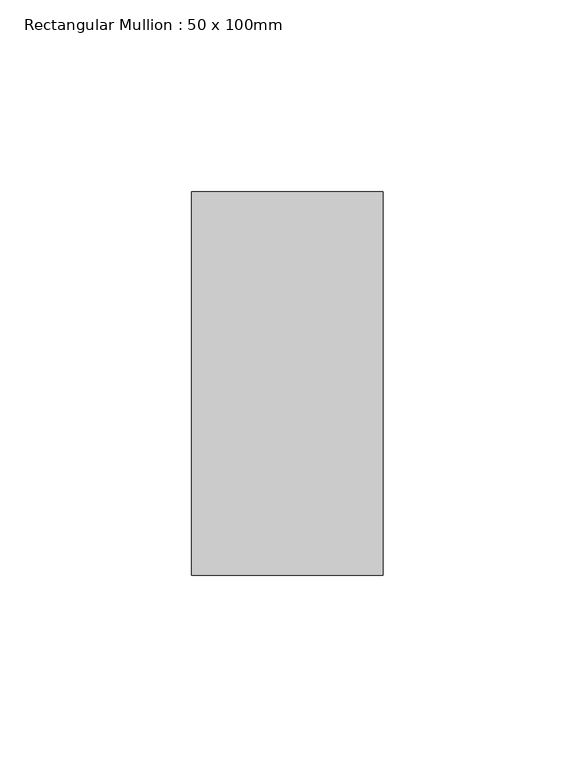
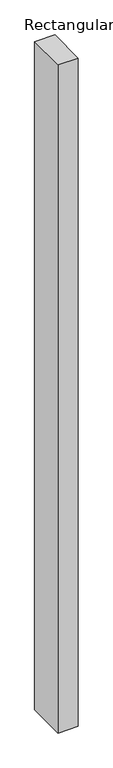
"""IFC4 building model written with IfcOpenShell, lengths in millimetres: member geometry, Rectangular Mullion : 50 x 100mm."""

from ifc_helpers import new_model, si_unit, frame, origin, place, context, project, spatial, polyline, outline, extrude, source, transform, mapped, element, save


def rectangular_mullion_50_x_100mm_08c5ebd4(model_context):
    return source(origin(), model_context, "Body", "SweptSolid", [
        extrude(outline(polyline([(25.0, 50.0), (25.0, -50.0), (-25.0, -50.0), (-25.0, 50.0), (25.0, 50.0)])), frame((0.0, 0.0, -1750.0), z_axis=(0.0, 0.0, 1.0), x_axis=(1.0, 0.0, 0.0)), (0.0, 0.0, 1.0), 1750.0),
    ])


if __name__ == "__main__":
    model = new_model("IFC4")
    model_context = context("Model", 3, world=origin())
    ifc_project = project(units=[si_unit("LENGTHUNIT", "METRE", prefix="MILLI")], contexts=[model_context])
    site = spatial("IfcSite", under=ifc_project)
    building = spatial("IfcBuilding", under=site)
    placement = place(None, origin())
    rectangular_mullion_50_x_100mm_shape = rectangular_mullion_50_x_100mm_08c5ebd4(model_context)
    element("IfcMember", 1, ObjectType="Rectangular Mullion : 50 x 100mm", at=placement, inside=building, context=model_context, shape_type="MappedRepresentation", body=[
        mapped(rectangular_mullion_50_x_100mm_shape, transform((0.0, 0.0, 0.0), x_axis=(1.0, 0.0, 0.0), y_axis=(0.0, 1.0, 0.0), z_axis=(0.0, 0.0, 1.0))),
    ])
    save(model, "model.ifc")
